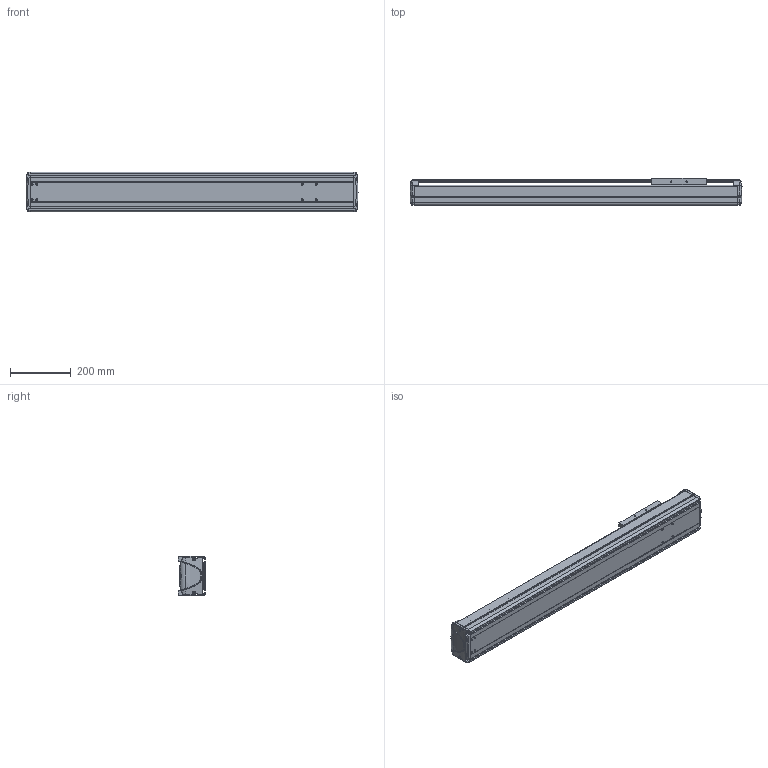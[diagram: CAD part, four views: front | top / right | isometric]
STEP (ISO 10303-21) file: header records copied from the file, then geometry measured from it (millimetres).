
FILE_DESCRIPTION((''),'2;1');
FILE_NAME('BE30E-ST-L_N-75_IGS_PRT','2017-06-17T',(' '),(''),'PRO/ENGINEER BY PARAMETRIC TECHNOLOGY CORPORATION, 2015030','PRO/ENGINEER BY PARAMETRIC TECHNOLOGY CORPORATION, 2015030','');
FILE_SCHEMA(('CONFIG_CONTROL_DESIGN'));
Length unit declared in the file: millimetre
Products named in the file (1): BE30E-ST-L_N-75_IGS_PRT
Bounding box: 1090 x 89.8 x 130 mm (x, y, z)
Volume: 3394015.3 mm3; surface area: 1334981.7 mm2
Topology: 3 solids, 88 shells, 1372 faces, 3697 edges, 2421 vertices
Faces by surface type: cylinder 627, plane 594, bspline 55, torus 42, cone 30, sphere 24
Entity records: 46190 total; most frequent: CARTESIAN_POINT 11596, DIRECTION 7138, ORIENTED_EDGE 7016, EDGE_CURVE 3677, AXIS2_PLACEMENT_3D 2586, VERTEX_POINT 2421, VECTOR 1966, LINE 1966
